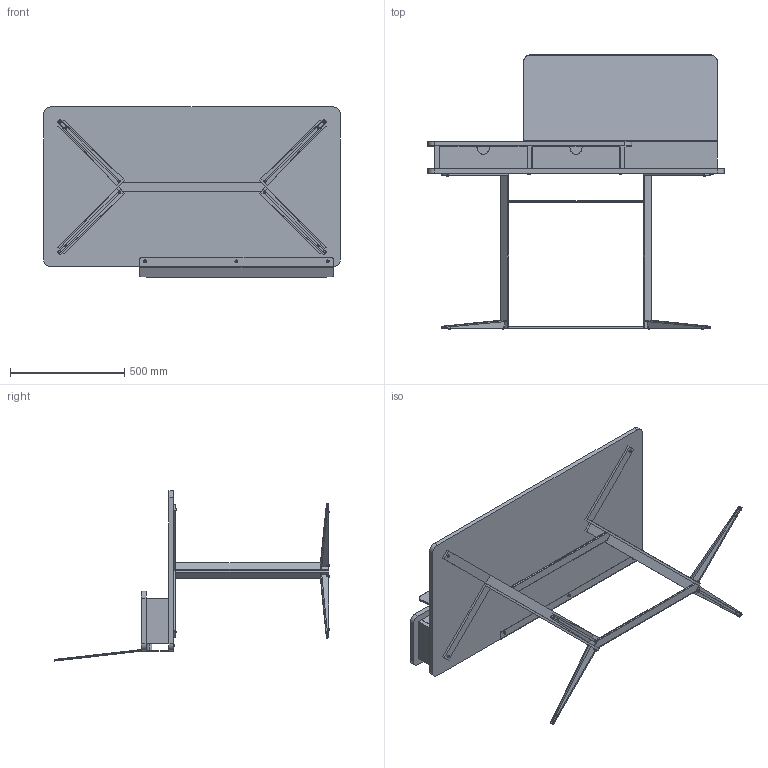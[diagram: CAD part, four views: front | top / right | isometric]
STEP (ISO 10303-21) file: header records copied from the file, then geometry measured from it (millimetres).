
FILE_DESCRIPTION (( 'STEP AP214' ), '1' );
FILE_NAME ('NELSON VANITY.STEP', '2022-11-11T17:05:15', ( '' ), ( '' ), 'SwSTEP 2.0', 'SolidWorks 2022', '' );
FILE_SCHEMA (( 'AUTOMOTIVE_DESIGN' ));
Length unit declared in the file: millimetre
Products named in the file (15): Paracolpo a fungo testa bombata; Specchio; Vite TSPIC M6x12; Tubetto distanziatore Geron Øest24 LL30; Lamiera x specchio; Vite TBEI M6x16; Piano & rialzo+2cassetti; Tubo traverso gambe; BUSSOLA ZAMA M6; TELAIO GAMBE H-O&VANITY; Cassetto scrittoio&vanity; Boccola PA Essentra Øest9,5 LL31,8; NELSON VANITY; Vite TSPIC M6x50; Scrittoio Gamba con piede
Assembly tree (40 placements, depth 3):
  NELSON VANITY
    TELAIO GAMBE H-O&VANITY
      Scrittoio Gamba con piede  x4
      Tubo traverso gambe  x2
      Paracolpo a fungo testa bombata  x8
    Piano & rialzo+2cassetti
    Lamiera x specchio
    Specchio
    BUSSOLA ZAMA M6  x9
    Vite TSPIC M6x12  x3
    Tubetto distanziatore Geron Øest24 LL30
    Vite TSPIC M6x50  x2
    Boccola PA Essentra Øest9,5 LL31,8
    Cassetto scrittoio&vanity  x2
    Vite TBEI M6x16  x4
Bounding box: 1300 x 1203.16 x 745.35 mm (x, y, z)
Volume: 33674975 mm3; surface area: 5970304.9 mm2
Topology: 76 solids, 76 shells, 1104 faces, 2534 edges, 1612 vertices
Faces by surface type: plane 574, cylinder 346, cone 114, torus 58, bspline 12
Entity records: 15015 total; most frequent: CARTESIAN_POINT 4623, DIRECTION 2059, ORIENTED_EDGE 1894, EDGE_CURVE 947, AXIS2_PLACEMENT_3D 736, VERTEX_POINT 603, VECTOR 587, LINE 587
